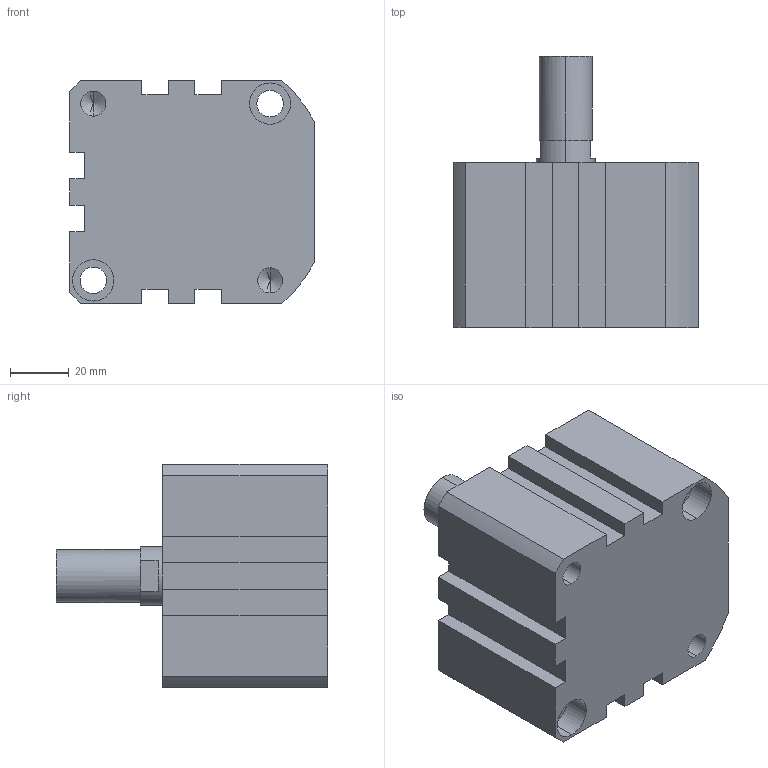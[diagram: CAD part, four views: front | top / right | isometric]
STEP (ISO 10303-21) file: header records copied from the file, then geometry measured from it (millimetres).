
FILE_DESCRIPTION (( 'STEP AP203' ), '1' );
FILE_NAME ('XG#M2-63-10.STEP', '2016-05-24T02:19:21', ( '' ), ( '' ), 'SwSTEP 2.0', 'SolidWorks 2014', '' );
FILE_SCHEMA (( 'CONFIG_CONTROL_DESIGN' ));
Length unit declared in the file: millimetre
Products named in the file (1): XG#M2-63-10
Bounding box: 83 x 92 x 76 mm (x, y, z)
Volume: 316538.4 mm3; surface area: 41935.6 mm2
Topology: 1 solids, 1 shells, 114 faces, 287 edges, 180 vertices
Faces by surface type: plane 50, cylinder 48, cone 16
Entity records: 3438 total; most frequent: DIRECTION 619, CARTESIAN_POINT 570, ORIENTED_EDGE 550, EDGE_CURVE 275, AXIS2_PLACEMENT_3D 229, VERTEX_POINT 180, LINE 161, VECTOR 161
